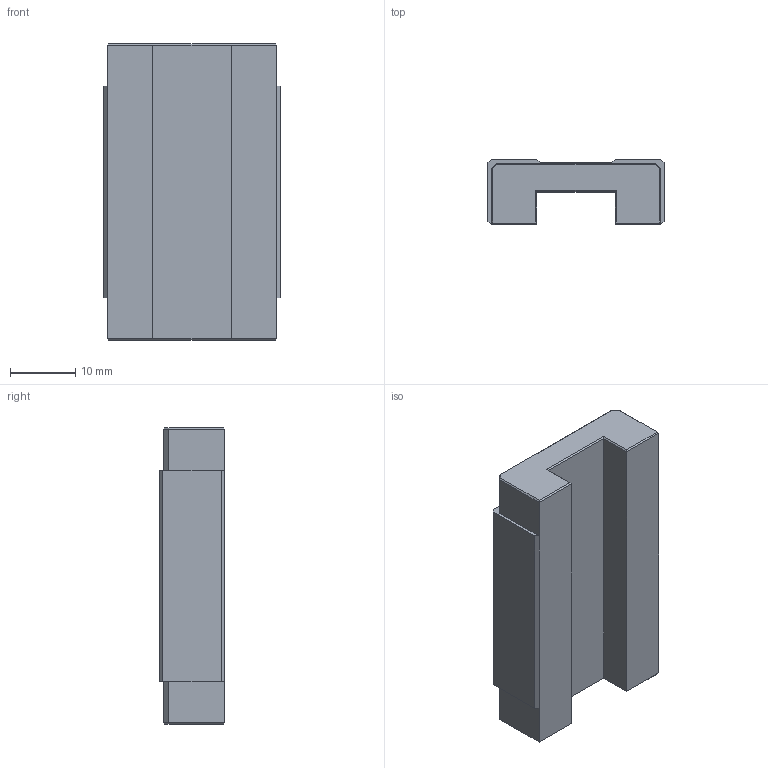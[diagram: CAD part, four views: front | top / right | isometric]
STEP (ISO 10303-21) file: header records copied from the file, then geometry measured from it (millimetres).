
FILE_DESCRIPTION(/* description */ (''),/* implementation_level */ '2;1');
FILE_NAME(/* name */ 'C:\Users\daviddillkoetter\ownCloud\Kamp und Kötter\Artikel\Miniaturfuehrungen_KPM\Step\KPMW-12C-BLZ0.stp',/* time_stamp */ '2020-12-07T12:24:48+01:00',/* author */ ('daviddillkoetter'),/* organization */ (''),/* preprocessor_version */ 'ST-DEVELOPER v18.1',/* originating_system */ 'Autodesk Inventor 2021',/* authorisation */ '');
FILE_SCHEMA (('AUTOMOTIVE_DESIGN { 1 0 10303 214 3 1 1 }'));
Length unit declared in the file: millimetre
Products named in the file (1): KPMW-12C-BLZ0
Bounding box: 27 x 10 x 45.4 mm (x, y, z)
Volume: 8886.9 mm3; surface area: 4278.2 mm2
Topology: 1 solids, 1 shells, 62 faces, 152 edges, 92 vertices
Faces by surface type: plane 50, cone 8, cylinder 4
Full cylindrical faces by diameter (mm): 2.459 x4
Entity records: 1819 total; most frequent: CARTESIAN_POINT 303, ORIENTED_EDGE 296, DIRECTION 290, EDGE_CURVE 148, LINE 132, VECTOR 132, VERTEX_POINT 92, AXIS2_PLACEMENT_3D 79
